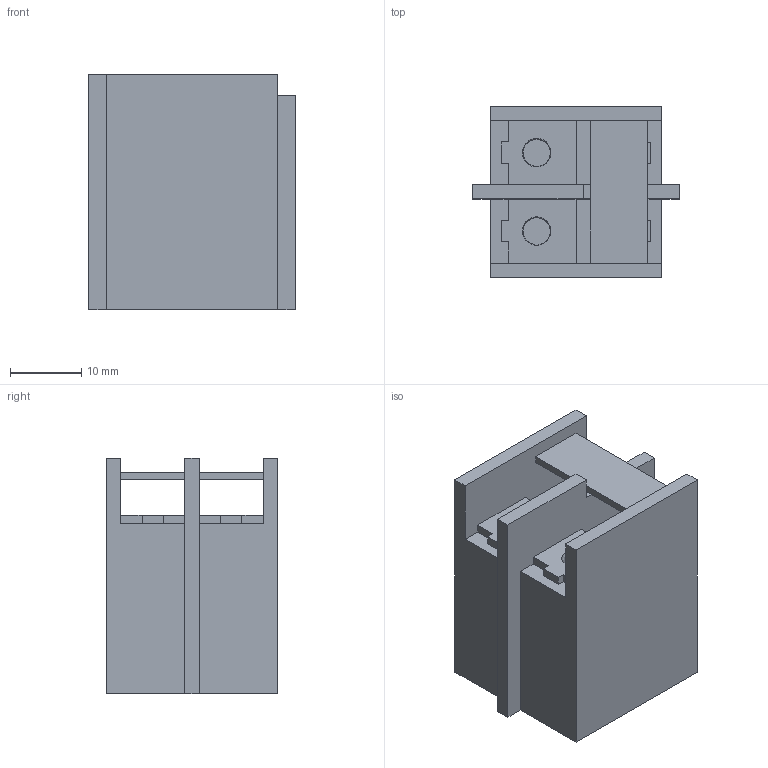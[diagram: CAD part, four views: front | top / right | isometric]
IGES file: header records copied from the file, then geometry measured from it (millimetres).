
Start section:  PTC IGES file: j3-30-55k-te3.igs
Global section: file name: j3-30-55k-te3.igs; native system: Pro/ENGINEER by Parametric Technology Corporation; preprocessor: 2006420; author: JE18792; organization: Unknown; date: 20101129.152804; units: millimetre
Bounding box: 29 x 24 x 33 mm (x, y, z)
Volume: 12471.1 mm3; surface area: 6794.8 mm2
Topology: 1 solids, 1 shells, 66 faces, 182 edges, 120 vertices
Faces by surface type: bspline 66
